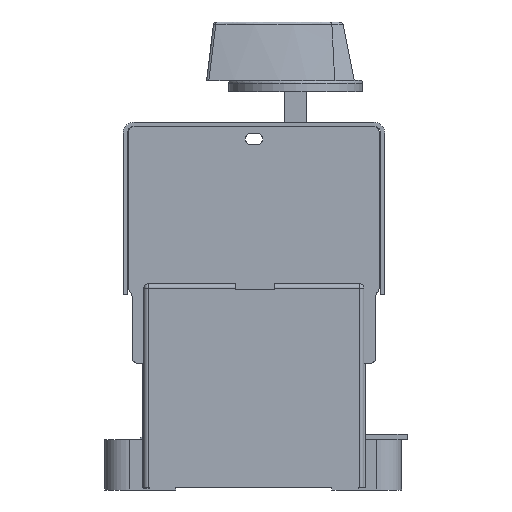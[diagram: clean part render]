
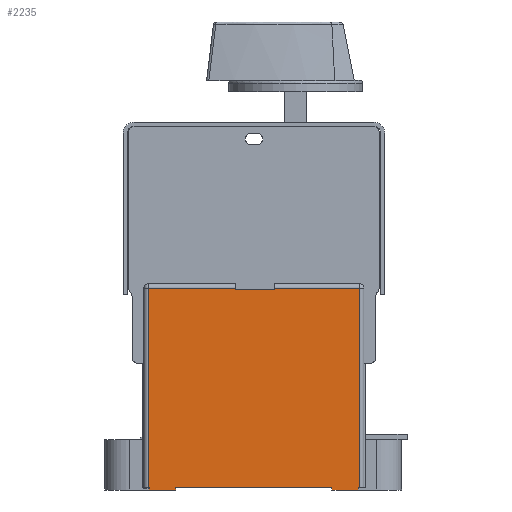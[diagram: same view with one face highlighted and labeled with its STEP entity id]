
A CAD part, left-side view. The second image highlights one B-rep face of the part: STEP entity #2235.
In plain terms, the highlighted planar face has unit normal (-1, 0, 0).
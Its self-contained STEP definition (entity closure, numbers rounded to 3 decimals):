
#838=PLANE('',#23747);
#2235=ADVANCED_FACE('',(#3662),#838,.F.);
#3662=FACE_OUTER_BOUND('',#4972,.T.);
#4972=EDGE_LOOP('',(#15335,#15336,#15337,#15338,#15339,#15340,#15341,#15342,
#15343,#15344,#15345,#15346,#15347,#15348,#15349,#15350));
#6989=LINE('',#35725,#9307);
#6991=LINE('',#35731,#9309);
#7061=LINE('',#36043,#9379);
#7077=LINE('',#36123,#9395);
#7112=LINE('',#36222,#9430);
#7117=LINE('',#36234,#9435);
#7119=LINE('',#36237,#9437);
#7125=LINE('',#36250,#9443);
#7264=LINE('',#36540,#9582);
#7265=LINE('',#36544,#9583);
#7266=LINE('',#36545,#9584);
#7267=LINE('',#36547,#9585);
#7268=LINE('',#36549,#9586);
#7269=LINE('',#36550,#9587);
#7270=LINE('',#36551,#9588);
#7271=LINE('',#36553,#9589);
#9307=VECTOR('',#28738,1.);
#9309=VECTOR('',#28744,1.);
#9379=VECTOR('',#29032,1.);
#9395=VECTOR('',#29144,1.);
#9430=VECTOR('',#29249,1.);
#9435=VECTOR('',#29256,1.);
#9437=VECTOR('',#29260,1.);
#9443=VECTOR('',#29268,1.);
#9582=VECTOR('',#29523,1.);
#9583=VECTOR('',#29528,1.);
#9584=VECTOR('',#29529,1.);
#9585=VECTOR('',#29530,1.);
#9586=VECTOR('',#29531,1.);
#9587=VECTOR('',#29532,1.);
#9588=VECTOR('',#29533,1.);
#9589=VECTOR('',#29534,1.);
#15335=ORIENTED_EDGE('',*,*,#21127,.F.);
#15336=ORIENTED_EDGE('',*,*,#20915,.T.);
#15337=ORIENTED_EDGE('',*,*,#20739,.T.);
#15338=ORIENTED_EDGE('',*,*,#21129,.F.);
#15339=ORIENTED_EDGE('',*,*,#20742,.T.);
#15340=ORIENTED_EDGE('',*,*,#20875,.T.);
#15341=ORIENTED_EDGE('',*,*,#21130,.T.);
#15342=ORIENTED_EDGE('',*,*,#21131,.T.);
#15343=ORIENTED_EDGE('',*,*,#21132,.F.);
#15344=ORIENTED_EDGE('',*,*,#20962,.F.);
#15345=ORIENTED_EDGE('',*,*,#20967,.T.);
#15346=ORIENTED_EDGE('',*,*,#21133,.T.);
#15347=ORIENTED_EDGE('',*,*,#20975,.F.);
#15348=ORIENTED_EDGE('',*,*,#20969,.F.);
#15349=ORIENTED_EDGE('',*,*,#21134,.T.);
#15350=ORIENTED_EDGE('',*,*,#21135,.T.);
#17819=VERTEX_POINT('',#35724);
#17820=VERTEX_POINT('',#35726);
#17822=VERTEX_POINT('',#35732);
#17823=VERTEX_POINT('',#35733);
#17911=VERTEX_POINT('',#36038);
#17912=VERTEX_POINT('',#36042);
#17958=VERTEX_POINT('',#36223);
#17959=VERTEX_POINT('',#36224);
#17963=VERTEX_POINT('',#36233);
#17964=VERTEX_POINT('',#36238);
#17965=VERTEX_POINT('',#36239);
#17968=VERTEX_POINT('',#36247);
#18063=VERTEX_POINT('',#36541);
#18064=VERTEX_POINT('',#36546);
#18065=VERTEX_POINT('',#36548);
#18066=VERTEX_POINT('',#36552);
#20739=EDGE_CURVE('',#17820,#17819,#6989,.T.);
#20742=EDGE_CURVE('',#17822,#17823,#6991,.T.);
#20875=EDGE_CURVE('',#17823,#17912,#7061,.T.);
#20915=EDGE_CURVE('',#17911,#17820,#7077,.T.);
#20962=EDGE_CURVE('',#17958,#17959,#7112,.T.);
#20967=EDGE_CURVE('',#17958,#17963,#7117,.T.);
#20969=EDGE_CURVE('',#17964,#17965,#7119,.T.);
#20975=EDGE_CURVE('',#17965,#17968,#7125,.T.);
#21127=EDGE_CURVE('',#17911,#18063,#7264,.T.);
#21129=EDGE_CURVE('',#17822,#17819,#7265,.T.);
#21130=EDGE_CURVE('',#17912,#18064,#7266,.T.);
#21131=EDGE_CURVE('',#18064,#18065,#7267,.T.);
#21132=EDGE_CURVE('',#17959,#18065,#7268,.T.);
#21133=EDGE_CURVE('',#17963,#17968,#7269,.T.);
#21134=EDGE_CURVE('',#17964,#18066,#7270,.T.);
#21135=EDGE_CURVE('',#18066,#18063,#7271,.T.);
#23747=AXIS2_PLACEMENT_3D('',#36554,#29535,#29536);
#28738=DIRECTION('',(0.,0.,-1.));
#28744=DIRECTION('',(0.,0.,1.));
#29032=DIRECTION('',(0.,1.,0.));
#29144=DIRECTION('',(0.,1.,0.));
#29249=DIRECTION('',(0.,1.,0.));
#29256=DIRECTION('',(0.,0.,1.));
#29260=DIRECTION('',(0.,1.,0.));
#29268=DIRECTION('',(0.,0.,1.));
#29523=DIRECTION('',(0.,0.,-1.));
#29528=DIRECTION('',(0.,-1.,0.));
#29529=DIRECTION('',(0.,0.,-1.));
#29530=DIRECTION('',(0.,-1.,0.));
#29531=DIRECTION('',(0.,0.,1.));
#29532=DIRECTION('',(0.,-1.,0.));
#29533=DIRECTION('',(0.,0.,1.));
#29534=DIRECTION('',(0.,-1.,0.));
#29535=DIRECTION('',(1.,0.,0.));
#29536=DIRECTION('',(0.,0.,-1.));
#35724=CARTESIAN_POINT('',(-69.,-31.985,67.));
#35725=CARTESIAN_POINT('',(-69.,-31.985,69.1));
#35726=CARTESIAN_POINT('',(-69.,-31.985,67.6));
#35731=CARTESIAN_POINT('',(-69.,-17.985,69.1));
#35732=CARTESIAN_POINT('',(-69.,-17.985,67.));
#35733=CARTESIAN_POINT('',(-69.,-17.985,67.6));
#36038=CARTESIAN_POINT('',(-69.,-62.735,67.6));
#36042=CARTESIAN_POINT('',(-69.,13.265,67.6));
#36043=CARTESIAN_POINT('',(-69.,13.265,67.6));
#36123=CARTESIAN_POINT('',(-69.,13.265,67.6));
#36222=CARTESIAN_POINT('',(-69.,3.265,-4.9));
#36223=CARTESIAN_POINT('',(-69.,3.265,-4.9));
#36224=CARTESIAN_POINT('',(-69.,12.765,-4.9));
#36233=CARTESIAN_POINT('',(-69.,3.265,-3.9));
#36234=CARTESIAN_POINT('',(-69.,3.265,-5.9));
#36237=CARTESIAN_POINT('',(-69.,-62.235,-4.9));
#36238=CARTESIAN_POINT('',(-69.,-62.235,-4.9));
#36239=CARTESIAN_POINT('',(-69.,-52.735,-4.9));
#36247=CARTESIAN_POINT('',(-69.,-52.735,-3.9));
#36250=CARTESIAN_POINT('',(-69.,-52.735,-5.9));
#36540=CARTESIAN_POINT('',(-69.,-62.735,69.1));
#36541=CARTESIAN_POINT('',(-69.,-62.735,-3.9));
#36544=CARTESIAN_POINT('',(-69.,12.765,67.));
#36545=CARTESIAN_POINT('',(-69.,13.265,69.1));
#36546=CARTESIAN_POINT('',(-69.,13.265,-3.9));
#36547=CARTESIAN_POINT('',(-69.,-62.235,-3.9));
#36548=CARTESIAN_POINT('',(-69.,12.765,-3.9));
#36549=CARTESIAN_POINT('',(-69.,12.765,-5.9));
#36550=CARTESIAN_POINT('',(-69.,-62.235,-3.9));
#36551=CARTESIAN_POINT('',(-69.,-62.235,-5.9));
#36552=CARTESIAN_POINT('',(-69.,-62.235,-3.9));
#36553=CARTESIAN_POINT('',(-69.,-62.235,-3.9));
#36554=CARTESIAN_POINT('',(-69.,-62.235,69.1));
